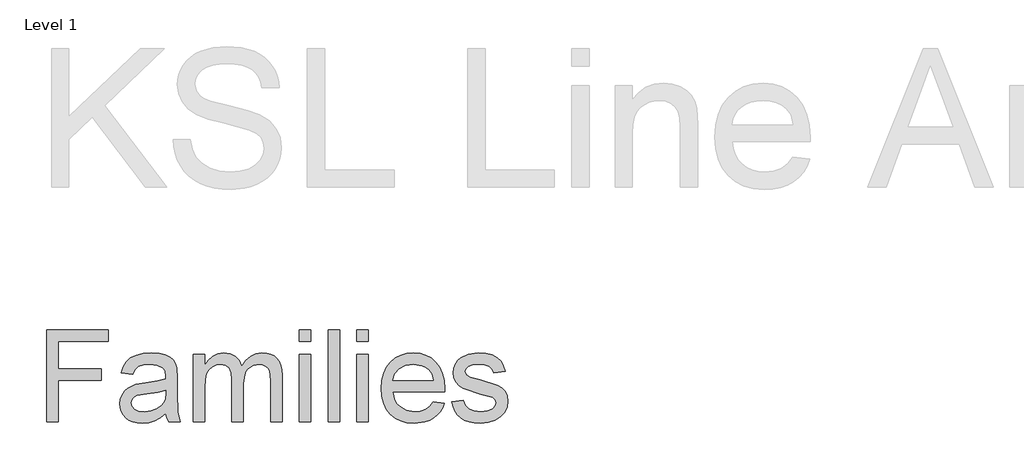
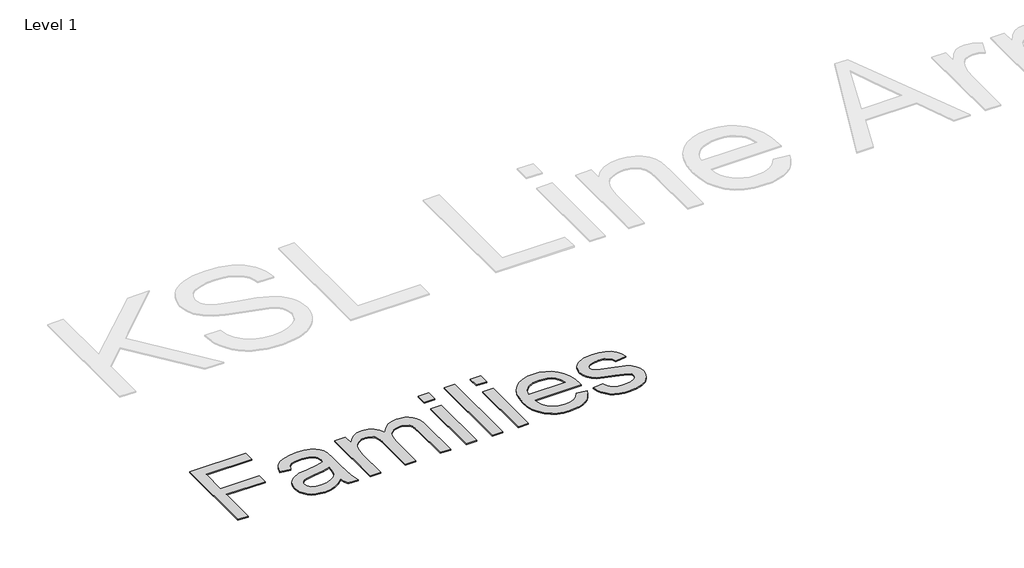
# One storey, part 24 of 52: 1 proxy.
"""IFC4 building model written with IfcOpenShell, lengths in millimetres."""

from ifc_helpers import new_model, si_unit, origin, origin_with_axes, place, context, project, spatial, polyline, outline, extrude, element, save

model = new_model("IFC4")

# Units and contexts
model_context = context("Model", 3, world=origin())
ifc_project = project(units=[si_unit("LENGTHUNIT", "METRE", prefix="MILLI")], contexts=[model_context])

# Site, building, storey
site = spatial("IfcSite", under=ifc_project)
building = spatial("IfcBuilding", under=site)
storey = spatial("IfcBuildingStorey", under=building, Name="Level 1", Elevation=0.0)

# Proxy
placement = place(None, origin())
element("IfcBuildingElementProxy", 1, Name="400mm Arial", ObjectType="400mm Arial", at=placement, inside=storey, context=model_context, shape_type="SweptSolid", body=[
    extrude(outline(polyline([(-21056.720891, -3067.5695164), (-21056.720891, -2675.8119407), (-20793.5087698, -2675.8119407), (-20793.5087698, -2724.7816376), (-21007.7511941, -2724.7816376), (-21007.7511941, -2841.0846679), (-20824.1148304, -2841.0846679), (-20824.1148304, -2890.0543649), (-21007.7511941, -2890.0543649), (-21007.7511941, -3067.5695164), (-21056.720891, -3067.5695164)])), origin_with_axes(), (0.0, 0.0, 1.0), 5.0),
    extrude(outline(polyline([(-20548.660285, -3030.8422437), (-20572.0571836, -3050.90356), (-20596.1475009, -3064.0306907), (-20621.4811893, -3071.2757191), (-20648.6082016, -3073.6907285), (-20670.4120309, -3072.2381362), (-20689.5318522, -3067.8803592), (-20705.9676654, -3060.6173976), (-20719.7194706, -3050.4492513), (-20730.5780466, -3038.0215169), (-20738.3341723, -3023.979791), (-20742.9878477, -3008.3240737), (-20744.5390729, -2991.0543649), (-20742.1957963, -2970.7539388), (-20735.1659668, -2952.3185695), (-20724.3223352, -2936.5373195), (-20710.5376524, -2924.1992513), (-20676.2493001, -2908.1310695), (-20633.879035, -2900.7664861), (-20583.8094327, -2893.019327), (-20548.9472168, -2883.9331528), (-20548.660285, -2873.0297437), (-20552.0317338, -2851.1751035), (-20562.1460804, -2836.8763346), (-20584.7658721, -2826.2598573), (-20616.2805501, -2822.7210316), (-20645.4519516, -2825.0762636), (-20665.8241107, -2832.1419596), (-20679.7163929, -2845.2093128), (-20689.4481638, -2865.5695164), (-20738.4178607, -2859.4483043), (-20729.9175056, -2832.6680013), (-20717.2327282, -2811.6263346), (-20699.1799346, -2795.5342418), (-20674.5755312, -2783.6026604), (-20644.4835568, -2776.214166), (-20609.9680501, -2773.7513346), (-20576.8632916, -2775.9272342), (-20550.6209857, -2782.4549331), (-20530.8346458, -2792.2703924), (-20517.097785, -2804.3095732), (-20507.9876997, -2819.1941613), (-20502.0816865, -2837.5458422), (-20499.690588, -2880.394327), (-20499.690588, -2941.3195164), (-20497.2038456, -3026.3948005), (-20487.4481638, -3067.5695164), (-20536.4178607, -3067.5695164), (-20544.2606638, -3050.5448952), (-20548.660285, -3030.8422437)]), holes=[polyline([(-20548.660285, -2932.9028498), (-20581.5618001, -2941.0564956), (-20627.6621789, -2947.9189482), (-20669.7933342, -2955.8573952), (-20680.7565208, -2961.2851888), (-20688.8743001, -2968.769327), (-20693.8956069, -2977.7359464), (-20695.5693759, -2987.6111831), (-20691.9229507, -3002.1729729), (-20680.9836751, -3014.1045543), (-20662.990659, -3022.0669123), (-20638.1830122, -3024.7210316), (-20611.8809289, -3021.7919359), (-20588.6394516, -3013.004649), (-20569.7975956, -3000.0568507), (-20556.6943759, -2984.646221), (-20550.8840066, -2968.769327), (-20548.9472168, -2946.771221), (-20548.660285, -2932.9028498)])]), origin_with_axes(), (0.0, 0.0, 1.0), 5.0),
    extrude(outline(polyline([(-20432.3572547, -3067.5695164), (-20432.3572547, -2779.8725467), (-20383.3875577, -2779.8725467), (-20383.3875577, -2827.2162967), (-20368.658391, -2805.469256), (-20349.720891, -2788.4326793), (-20327.2206543, -2777.4216708), (-20301.8032774, -2773.7513346), (-20274.5686657, -2777.4934037), (-20252.7379365, -2788.7196111), (-20236.4306448, -2806.6887162), (-20225.7663456, -2830.6594785), (-20207.9167954, -2805.7621656), (-20187.5565918, -2787.9783706), (-20164.6857348, -2777.3080936), (-20139.3042244, -2773.7513346), (-20119.7002057, -2775.2308268), (-20102.4932632, -2779.6693034), (-20087.683397, -2787.0667643), (-20075.2706069, -2797.4232096), (-20065.4581365, -2810.8581942), (-20058.4492291, -2827.4912731), (-20054.2438846, -2847.3224461), (-20052.8421032, -2870.3517134), (-20052.8421032, -3067.5695164), (-20101.8118001, -3067.5695164), (-20101.8118001, -2891.3933801), (-20106.3548872, -2850.505596), (-20112.7391202, -2839.2315666), (-20122.8056448, -2830.3725467), (-20135.7534431, -2824.6339104), (-20150.7814971, -2822.7210316), (-20177.3107348, -2827.6227835), (-20198.9382206, -2842.3280392), (-20207.3279874, -2853.6080463), (-20213.320678, -2867.84106), (-20218.1148304, -2905.1661073), (-20218.1148304, -3067.5695164), (-20267.0845274, -3067.5695164), (-20267.0845274, -2885.9416755), (-20269.9179791, -2858.2527551), (-20278.4183342, -2838.5022816), (-20293.3746552, -2826.6663441), (-20315.5760047, -2822.7210316), (-20334.4417717, -2825.3512399), (-20351.8250577, -2833.2418649), (-20366.1716486, -2846.2016187), (-20375.9273304, -2864.0392134), (-20381.5225009, -2888.7870827), (-20383.3875577, -2922.4776604), (-20383.3875577, -3067.5695164), (-20432.3572547, -3067.5695164)])), origin_with_axes(), (0.0, 0.0, 1.0), 5.0),
    extrude(outline(polyline([(-19979.3875577, -2724.7816376), (-19979.3875577, -2675.8119407), (-19930.4178607, -2675.8119407), (-19930.4178607, -2724.7816376), (-19979.3875577, -2724.7816376)])), origin_with_axes(), (0.0, 0.0, 1.0), 5.0),
    extrude(outline(polyline([(-19979.3875577, -3067.5695164), (-19979.3875577, -2779.8725467), (-19930.4178607, -2779.8725467), (-19930.4178607, -3067.5695164), (-19979.3875577, -3067.5695164)])), origin_with_axes(), (0.0, 0.0, 1.0), 5.0),
    extrude(outline(polyline([(-19856.9633153, -3067.5695164), (-19856.9633153, -2675.8119407), (-19807.9936183, -2675.8119407), (-19807.9936183, -3067.5695164), (-19856.9633153, -3067.5695164)])), origin_with_axes(), (0.0, 0.0, 1.0), 5.0),
    extrude(outline(polyline([(-19734.5390729, -2724.7816376), (-19734.5390729, -2675.8119407), (-19685.5693759, -2675.8119407), (-19685.5693759, -2724.7816376), (-19734.5390729, -2724.7816376)])), origin_with_axes(), (0.0, 0.0, 1.0), 5.0),
    extrude(outline(polyline([(-19734.5390729, -3067.5695164), (-19734.5390729, -2779.8725467), (-19685.5693759, -2779.8725467), (-19685.5693759, -3067.5695164), (-19734.5390729, -3067.5695164)])), origin_with_axes(), (0.0, 0.0, 1.0), 5.0),
    extrude(outline(polyline([(-19410.6886941, -2981.8725467), (-19362.6754365, -2987.9937589), (-19370.0370309, -3007.2241684), (-19379.975034, -3024.1710789), (-19392.4894457, -3038.8344904), (-19407.580266, -3051.2144028), (-19425.0920736, -3061.0477953), (-19444.8694469, -3068.0716471), (-19491.220891, -3073.6907285), (-19521.605775, -3071.2667525), (-19548.6789876, -3063.9948242), (-19572.4405288, -3051.8749437), (-19592.8903986, -3034.9071111), (-19609.3351784, -3013.5635683), (-19621.0814497, -2988.3165571), (-19628.1292125, -2959.1660777), (-19630.4784668, -2926.1121301), (-19628.1053015, -2891.937355), (-19620.9858058, -2861.8154918), (-19609.1199796, -2835.7465406), (-19592.5078229, -2813.7305013), (-19572.1117528, -2796.2396159), (-19548.8941865, -2783.7461263), (-19522.855124, -2776.2500325), (-19493.9945653, -2773.7513346), (-19466.0635461, -2776.2440548), (-19440.8045795, -2783.7222153), (-19418.2176654, -2796.1858161), (-19398.3028039, -2813.6348573), (-19382.0463231, -2835.6030747), (-19370.4345511, -2861.6242039), (-19363.4674879, -2891.6982451), (-19361.1451335, -2925.8251982), (-19361.4320653, -2939.0240619), (-19581.5087698, -2939.0240619), (-19578.6723292, -2958.5653142), (-19573.0323257, -2975.6796017), (-19564.5887592, -2990.3669241), (-19553.3416297, -3002.6272816), (-19524.9234242, -3019.1975941), (-19490.2644516, -3024.7210316), (-19464.2014782, -3022.1625562), (-19442.2511941, -3014.4871301), (-19424.4135994, -3001.2165335), (-19410.6886941, -2981.8725467)]), holes=[polyline([(-19581.5087698, -2890.0543649), (-19410.1148304, -2890.0543649), (-19416.7381732, -2864.1826793), (-19429.721838, -2845.675577), (-19443.076123, -2835.6329634), (-19458.2715539, -2828.4596679), (-19494.1858532, -2822.7210316), (-19527.1949677, -2827.2999852), (-19554.4893569, -2841.036846), (-19573.4627234, -2862.4491329), (-19581.5087698, -2890.0543649)])]), origin_with_axes(), (0.0, 0.0, 1.0), 5.0),
    extrude(outline(polyline([(-19330.5390729, -2981.8725467), (-19281.5693759, -2975.7513346), (-19273.8461278, -2996.6973573), (-19258.9017622, -3012.0960316), (-19236.6406354, -3021.5647816), (-19206.9671032, -3024.7210316), (-19177.6522357, -3021.8278024), (-19157.0409668, -3013.1481149), (-19144.8463645, -3000.5709369), (-19140.7814971, -2985.9852361), (-19144.8702755, -2973.503702), (-19157.1366107, -2963.9871301), (-19207.5409668, -2950.0231149), (-19281.2824441, -2926.0643081), (-19299.9449677, -2914.0251272), (-19313.4666297, -2898.0884558), (-19321.680053, -2879.2705107), (-19324.4178607, -2858.5875089), (-19322.2180501, -2839.6141424), (-19315.6186183, -2822.099346), (-19305.2173399, -2806.7365382), (-19291.6119895, -2794.2191376), (-19260.4798872, -2779.7290808), (-19218.3487319, -2773.7513346), (-19186.4753891, -2776.1543886), (-19158.7625577, -2783.3635505), (-19136.4775198, -2794.6734464), (-19120.8875577, -2809.378702), (-19110.5580122, -2828.5672674), (-19104.0542244, -2853.3270922), (-19153.0239213, -2859.4483043), (-19159.2049109, -2844.0376746), (-19171.4353797, -2832.4288914), (-19189.8348825, -2825.1479965), (-19214.5229744, -2822.7210316), (-19242.6422925, -2825.0403971), (-19261.3885047, -2831.9984937), (-19271.933249, -2842.0411073), (-19275.4481638, -2853.614024), (-19269.6138835, -2867.864971), (-19251.345891, -2878.6727361), (-19209.1669138, -2889.0979255), (-19137.2904933, -2912.1481149), (-19118.3051713, -2923.1710789), (-19103.9107585, -2938.2589104), (-19094.8365397, -2957.4594312), (-19091.8118001, -2980.8204634), (-19095.3625814, -3004.9705581), (-19106.0149251, -3027.6859937), (-19123.3623446, -3047.1854018), (-19146.9983532, -3061.6874142), (-19175.5480691, -3070.6899), (-19207.6366107, -3073.6907285), (-19233.9924938, -3072.244114), (-19257.0127944, -3067.9042702), (-19276.6975127, -3060.6711973), (-19293.0466486, -3050.5448952), (-19306.4009336, -3037.5731859), (-19317.1010994, -3021.8038914), (-19325.1471458, -3003.2370117), (-19330.5390729, -2981.8725467)])), origin_with_axes(), (0.0, 0.0, 1.0), 5.0),
])

save(model, "model.ifc")
